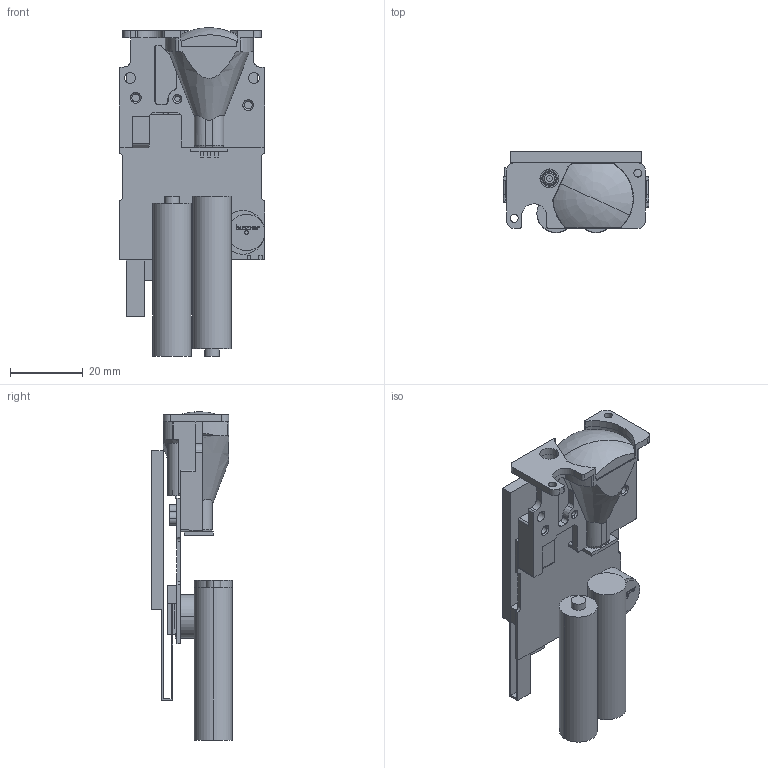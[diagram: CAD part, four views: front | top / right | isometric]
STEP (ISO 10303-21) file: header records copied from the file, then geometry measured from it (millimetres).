
FILE_DESCRIPTION((''),'2;1');
FILE_NAME('BIGNEW-BRACKET-ALL20180606_ASM__ASM','2018-11-11T',('Administrator'),(''),'PRO/ENGINEER BY PARAMETRIC TECHNOLOGY CORPORATION, 2011310','PRO/ENGINEER BY PARAMETRIC TECHNOLOGY CORPORATION, 2011310','');
FILE_SCHEMA(('CONFIG_CONTROL_DESIGN','SHAPE_APPEARANCE_LAYERS_GROUPS'));
Products named in the file (22): MANIFOLD_SOLID_BREP_169_2_1; MANIFOLD_SOLID_BREP_174_3_1; MANIFOLD_SOLID_BREP_175_12_3; ADMI36E9KF5H_ASM_ASM_2_ASM_ASM__ASM; ASM0001_ASM_1_ASM_ASM_1_ASM_ASM_ASM; PRT0004_10_1; LD_1_1; MANIFOLD_SOLID_BREP_31532_1; MANIFOLD_SOLID_BREP_31743_1; PRT0007_3_ASM_ASM_1_ASM_ASM_ASM; MANIFOLD_SOLID_BREP_31946_1; MANIFOLD_SOLID_BREP_32114_1; PRT0002_4_ASM_ASM_1_ASM_ASM_ASM; 2016_02_ASM_ASM_62_ASM_ASM_1_AS_ASM; 2016_02_ASM_ASM_ASM_ASM_1_ASM_A_ASM; LCD_1; BUZZER2_1; BIGNEW-TOWAN20180104_ASM_3_ASM__ASM; BIGNEW-TOWAN20180605_ASM_ASM_AS_ASM; 2018-6-6; BIGNEW-BRACKET-ALL20180605_ASM__ASM; BIGNEW-BRACKET-ALL20180606_ASM__ASM
Assembly tree (21 placements, depth 9):
  BIGNEW-BRACKET-ALL20180606_ASM__ASM
    BIGNEW-BRACKET-ALL20180605_ASM__ASM
      BIGNEW-TOWAN20180605_ASM_ASM_AS_ASM
        BIGNEW-TOWAN20180104_ASM_3_ASM__ASM
          2016_02_ASM_ASM_ASM_ASM_1_ASM_A_ASM
            2016_02_ASM_ASM_62_ASM_ASM_1_AS_ASM
              ASM0001_ASM_1_ASM_ASM_1_ASM_ASM_ASM
                ADMI36E9KF5H_ASM_ASM_2_ASM_ASM__ASM
                  MANIFOLD_SOLID_BREP_169_2_1
                  MANIFOLD_SOLID_BREP_174_3_1
                  MANIFOLD_SOLID_BREP_175_12_3
              PRT0004_10_1
              LD_1_1
              PRT0007_3_ASM_ASM_1_ASM_ASM_ASM
                MANIFOLD_SOLID_BREP_31532_1
                MANIFOLD_SOLID_BREP_31743_1
              PRT0002_4_ASM_ASM_1_ASM_ASM_ASM
                MANIFOLD_SOLID_BREP_31946_1
                MANIFOLD_SOLID_BREP_32114_1
          LCD_1
          BUZZER2_1
      2018-6-6
Bounding box: 40 x 22.2 x 90.2 mm (x, y, z)
Volume: 21132.2 mm3; surface area: 19583 mm2
Topology: 12 solids, 12 shells, 1046 faces, 2879 edges, 1916 vertices
Faces by surface type: plane 833, cylinder 139, cone 55, torus 7, bspline 5, extrusion 5, revolution 2
Entity records: 42511 total; most frequent: CARTESIAN_POINT 7403, ORIENTED_EDGE 5754, DIRECTION 5250, EDGE_CURVE 2877, PRESENTATION_STYLE_ASSIGNMENT 2551, STYLED_ITEM 2537, CURVE_STYLE 2524, VECTOR 2350
